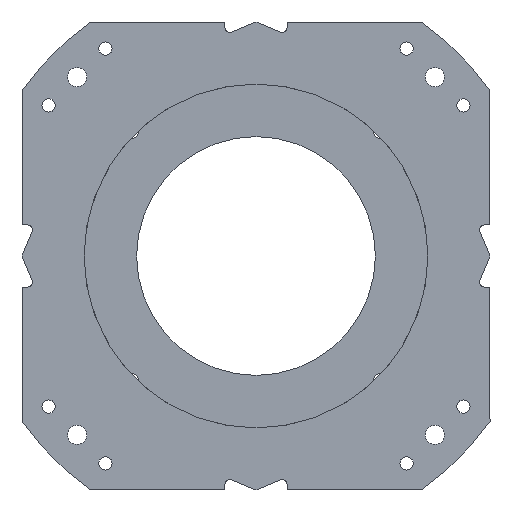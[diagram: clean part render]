
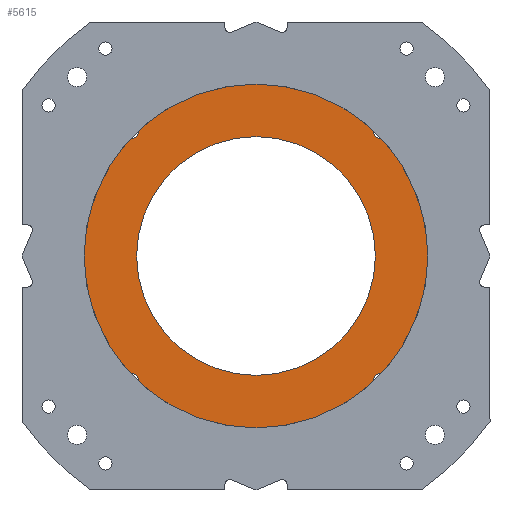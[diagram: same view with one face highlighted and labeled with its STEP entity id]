
A CAD part, front view. The second image highlights one B-rep face of the part: STEP entity #5615.
In plain terms, the highlighted planar face has unit normal (0, -1, 0).
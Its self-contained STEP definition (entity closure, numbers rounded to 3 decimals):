
#10 = DIRECTION ( 'NONE',  ( 0., -1., 0. ) ) ;
#59 = CARTESIAN_POINT ( 'NONE',  ( 0., 263., -180. ) ) ;
#106 = DIRECTION ( 'NONE',  ( 0., 0., -1. ) ) ;
#189 = ORIENTED_EDGE ( 'NONE', *, *, #2315, .F. ) ;
#229 = CARTESIAN_POINT ( 'NONE',  ( 130., 263., 130. ) ) ;
#264 = CIRCLE ( 'NONE', #4514, 7. ) ;
#274 = DIRECTION ( 'NONE',  ( 0., -1., 0. ) ) ;
#381 = CIRCLE ( 'NONE', #3617, 7. ) ;
#393 = EDGE_CURVE ( 'NONE', #2235, #1157, #381, .T. ) ;
#411 = VERTEX_POINT ( 'NONE', #658 ) ;
#414 = DIRECTION ( 'NONE',  ( 0., 0., -1. ) ) ;
#416 = AXIS2_PLACEMENT_3D ( 'NONE', #5645, #1369, #2545 ) ;
#499 = CIRCLE ( 'NONE', #2045, 180. ) ;
#526 = ORIENTED_EDGE ( 'NONE', *, *, #6939, .F. ) ;
#658 = CARTESIAN_POINT ( 'NONE',  ( 123.123, 263., 131.304 ) ) ;
#663 = DIRECTION ( 'NONE',  ( 0., 0., -1. ) ) ;
#693 = ORIENTED_EDGE ( 'NONE', *, *, #393, .F. ) ;
#723 = ORIENTED_EDGE ( 'NONE', *, *, #1205, .F. ) ;
#784 = CIRCLE ( 'NONE', #4374, 7. ) ;
#819 = CARTESIAN_POINT ( 'NONE',  ( 0., 263., 0. ) ) ;
#902 = CARTESIAN_POINT ( 'NONE',  ( 0., 263., 0. ) ) ;
#993 = VERTEX_POINT ( 'NONE', #6865 ) ;
#1014 = DIRECTION ( 'NONE',  ( 0., -1., 0. ) ) ;
#1034 = CARTESIAN_POINT ( 'NONE',  ( 0., 263., 0. ) ) ;
#1058 = AXIS2_PLACEMENT_3D ( 'NONE', #819, #7522, #663 ) ;
#1068 = CARTESIAN_POINT ( 'NONE',  ( 130., 263., -123. ) ) ;
#1157 = VERTEX_POINT ( 'NONE', #7712 ) ;
#1170 = CIRCLE ( 'NONE', #6683, 180. ) ;
#1205 = EDGE_CURVE ( 'NONE', #6469, #3602, #2585, .T. ) ;
#1214 = DIRECTION ( 'NONE',  ( 0., -1., 0. ) ) ;
#1261 = CARTESIAN_POINT ( 'NONE',  ( 130., 263., -130. ) ) ;
#1267 = EDGE_CURVE ( 'NONE', #5495, #4614, #264, .T. ) ;
#1319 = AXIS2_PLACEMENT_3D ( 'NONE', #7372, #3618, #6045 ) ;
#1328 = AXIS2_PLACEMENT_3D ( 'NONE', #3606, #1214, #1732 ) ;
#1369 = DIRECTION ( 'NONE',  ( 0., -1., 0. ) ) ;
#1503 = CARTESIAN_POINT ( 'NONE',  ( 0., 263., 0. ) ) ;
#1519 = DIRECTION ( 'NONE',  ( 0., -1., 0. ) ) ;
#1586 = DIRECTION ( 'NONE',  ( 0., 0., 1. ) ) ;
#1594 = ORIENTED_EDGE ( 'NONE', *, *, #2526, .F. ) ;
#1627 = CARTESIAN_POINT ( 'NONE',  ( -131.304, 263., -123.123 ) ) ;
#1722 = ORIENTED_EDGE ( 'NONE', *, *, #5327, .F. ) ;
#1732 = DIRECTION ( 'NONE',  ( 0., 0., -1. ) ) ;
#1765 = EDGE_CURVE ( 'NONE', #1157, #2723, #1937, .T. ) ;
#1780 = CIRCLE ( 'NONE', #1918, 180. ) ;
#1794 = DIRECTION ( 'NONE',  ( 0., 0., 1. ) ) ;
#1890 = CARTESIAN_POINT ( 'NONE',  ( 0., 263., 0. ) ) ;
#1918 = AXIS2_PLACEMENT_3D ( 'NONE', #2011, #7354, #2499 ) ;
#1937 = CIRCLE ( 'NONE', #2450, 180. ) ;
#1952 = ORIENTED_EDGE ( 'NONE', *, *, #5223, .F. ) ;
#1969 = VERTEX_POINT ( 'NONE', #1068 ) ;
#2008 = CARTESIAN_POINT ( 'NONE',  ( 131.304, 263., -123.123 ) ) ;
#2011 = CARTESIAN_POINT ( 'NONE',  ( 0., 263., 0. ) ) ;
#2019 = FACE_BOUND ( 'NONE', #4557, .T. ) ;
#2045 = AXIS2_PLACEMENT_3D ( 'NONE', #1034, #7299, #1794 ) ;
#2197 = DIRECTION ( 'NONE',  ( 0., 1., 0. ) ) ;
#2235 = VERTEX_POINT ( 'NONE', #6482 ) ;
#2266 = EDGE_CURVE ( 'NONE', #993, #411, #1170, .T. ) ;
#2315 = EDGE_CURVE ( 'NONE', #1969, #6469, #6801, .T. ) ;
#2450 = AXIS2_PLACEMENT_3D ( 'NONE', #1890, #5040, #5603 ) ;
#2481 = CIRCLE ( 'NONE', #1058, 125. ) ;
#2499 = DIRECTION ( 'NONE',  ( 0., 0., 1. ) ) ;
#2526 = EDGE_CURVE ( 'NONE', #2723, #1969, #784, .T. ) ;
#2545 = DIRECTION ( 'NONE',  ( 0., 0., -1. ) ) ;
#2565 = CARTESIAN_POINT ( 'NONE',  ( 0., 263., 0. ) ) ;
#2585 = CIRCLE ( 'NONE', #7328, 180. ) ;
#2723 = VERTEX_POINT ( 'NONE', #2008 ) ;
#2803 = AXIS2_PLACEMENT_3D ( 'NONE', #2565, #5029, #106 ) ;
#2814 = AXIS2_PLACEMENT_3D ( 'NONE', #7057, #5270, #4022 ) ;
#2817 = CARTESIAN_POINT ( 'NONE',  ( 130., 263., -130. ) ) ;
#2855 = ORIENTED_EDGE ( 'NONE', *, *, #7377, .F. ) ;
#2984 = CARTESIAN_POINT ( 'NONE',  ( -131.304, 263., 123.123 ) ) ;
#3078 = AXIS2_PLACEMENT_3D ( 'NONE', #229, #1519, #6301 ) ;
#3191 = PLANE ( 'NONE',  #416 ) ;
#3255 = EDGE_CURVE ( 'NONE', #4980, #5168, #6074, .T. ) ;
#3274 = ORIENTED_EDGE ( 'NONE', *, *, #7890, .F. ) ;
#3420 = CARTESIAN_POINT ( 'NONE',  ( 0., 263., 0. ) ) ;
#3459 = CARTESIAN_POINT ( 'NONE',  ( -130., 263., 123. ) ) ;
#3482 = ORIENTED_EDGE ( 'NONE', *, *, #3255, .F. ) ;
#3544 = CARTESIAN_POINT ( 'NONE',  ( 130., 263., 130. ) ) ;
#3596 = CIRCLE ( 'NONE', #2803, 125. ) ;
#3602 = VERTEX_POINT ( 'NONE', #59 ) ;
#3606 = CARTESIAN_POINT ( 'NONE',  ( -130., 263., 130. ) ) ;
#3617 = AXIS2_PLACEMENT_3D ( 'NONE', #3544, #10, #7132 ) ;
#3618 = DIRECTION ( 'NONE',  ( 0., -1., 0. ) ) ;
#3755 = VERTEX_POINT ( 'NONE', #5765 ) ;
#3867 = VERTEX_POINT ( 'NONE', #5846 ) ;
#3963 = DIRECTION ( 'NONE',  ( 0., 1., 0. ) ) ;
#3973 = CIRCLE ( 'NONE', #3078, 7. ) ;
#4022 = DIRECTION ( 'NONE',  ( 0., 0., -1. ) ) ;
#4204 = ORIENTED_EDGE ( 'NONE', *, *, #1267, .F. ) ;
#4275 = CIRCLE ( 'NONE', #1319, 7. ) ;
#4282 = AXIS2_PLACEMENT_3D ( 'NONE', #3420, #2197, #5817 ) ;
#4342 = ORIENTED_EDGE ( 'NONE', *, *, #7219, .F. ) ;
#4374 = AXIS2_PLACEMENT_3D ( 'NONE', #2817, #274, #5794 ) ;
#4514 = AXIS2_PLACEMENT_3D ( 'NONE', #5886, #1014, #414 ) ;
#4536 = EDGE_CURVE ( 'NONE', #4614, #4980, #6452, .T. ) ;
#4557 = EDGE_LOOP ( 'NONE', ( #1722, #2855 ) ) ;
#4614 = VERTEX_POINT ( 'NONE', #1627 ) ;
#4691 = CARTESIAN_POINT ( 'NONE',  ( 0., 263., -125. ) ) ;
#4858 = ORIENTED_EDGE ( 'NONE', *, *, #1765, .F. ) ;
#4887 = CARTESIAN_POINT ( 'NONE',  ( -130., 263., -123. ) ) ;
#4891 = DIRECTION ( 'NONE',  ( 0., -1., 0. ) ) ;
#4959 = VERTEX_POINT ( 'NONE', #4691 ) ;
#4980 = VERTEX_POINT ( 'NONE', #2984 ) ;
#5029 = DIRECTION ( 'NONE',  ( 0., -1., 0. ) ) ;
#5040 = DIRECTION ( 'NONE',  ( 0., 1., 0. ) ) ;
#5115 = EDGE_LOOP ( 'NONE', ( #1594, #4858, #693, #3274, #6996, #4342, #1952, #3482, #5748, #4204, #5571, #526, #723, #189 ) ) ;
#5168 = VERTEX_POINT ( 'NONE', #3459 ) ;
#5223 = EDGE_CURVE ( 'NONE', #5168, #3755, #4275, .T. ) ;
#5270 = DIRECTION ( 'NONE',  ( 0., -1., 0. ) ) ;
#5327 = EDGE_CURVE ( 'NONE', #3867, #4959, #2481, .T. ) ;
#5495 = VERTEX_POINT ( 'NONE', #4887 ) ;
#5571 = ORIENTED_EDGE ( 'NONE', *, *, #7129, .F. ) ;
#5584 = VERTEX_POINT ( 'NONE', #6192 ) ;
#5603 = DIRECTION ( 'NONE',  ( 0., 0., 1. ) ) ;
#5615 = ADVANCED_FACE ( 'NONE', ( #2019, #7399 ), #3191, .T. ) ;
#5645 = CARTESIAN_POINT ( 'NONE',  ( 0., 263., 0. ) ) ;
#5748 = ORIENTED_EDGE ( 'NONE', *, *, #4536, .F. ) ;
#5765 = CARTESIAN_POINT ( 'NONE',  ( -123.123, 263., 131.304 ) ) ;
#5778 = AXIS2_PLACEMENT_3D ( 'NONE', #1261, #4891, #7904 ) ;
#5794 = DIRECTION ( 'NONE',  ( 0., 0., -1. ) ) ;
#5813 = DIRECTION ( 'NONE',  ( 0., 0., 1. ) ) ;
#5817 = DIRECTION ( 'NONE',  ( 0., 0., 1. ) ) ;
#5846 = CARTESIAN_POINT ( 'NONE',  ( 0., 263., 125. ) ) ;
#5886 = CARTESIAN_POINT ( 'NONE',  ( -130., 263., -130. ) ) ;
#6045 = DIRECTION ( 'NONE',  ( 0., 0., -1. ) ) ;
#6074 = CIRCLE ( 'NONE', #1328, 7. ) ;
#6192 = CARTESIAN_POINT ( 'NONE',  ( -123.123, 263., -131.304 ) ) ;
#6274 = CIRCLE ( 'NONE', #2814, 7. ) ;
#6301 = DIRECTION ( 'NONE',  ( 0., 0., -1. ) ) ;
#6452 = CIRCLE ( 'NONE', #4282, 180. ) ;
#6469 = VERTEX_POINT ( 'NONE', #6928 ) ;
#6482 = CARTESIAN_POINT ( 'NONE',  ( 130., 263., 123. ) ) ;
#6683 = AXIS2_PLACEMENT_3D ( 'NONE', #1503, #3963, #5813 ) ;
#6801 = CIRCLE ( 'NONE', #5778, 7. ) ;
#6865 = CARTESIAN_POINT ( 'NONE',  ( 0., 263., 180. ) ) ;
#6928 = CARTESIAN_POINT ( 'NONE',  ( 123.123, 263., -131.304 ) ) ;
#6939 = EDGE_CURVE ( 'NONE', #3602, #5584, #1780, .T. ) ;
#6996 = ORIENTED_EDGE ( 'NONE', *, *, #2266, .F. ) ;
#7057 = CARTESIAN_POINT ( 'NONE',  ( -130., 263., -130. ) ) ;
#7080 = DIRECTION ( 'NONE',  ( 0., 1., 0. ) ) ;
#7129 = EDGE_CURVE ( 'NONE', #5584, #5495, #6274, .T. ) ;
#7132 = DIRECTION ( 'NONE',  ( 0., 0., -1. ) ) ;
#7219 = EDGE_CURVE ( 'NONE', #3755, #993, #499, .T. ) ;
#7299 = DIRECTION ( 'NONE',  ( 0., 1., 0. ) ) ;
#7328 = AXIS2_PLACEMENT_3D ( 'NONE', #902, #7080, #1586 ) ;
#7354 = DIRECTION ( 'NONE',  ( 0., 1., 0. ) ) ;
#7372 = CARTESIAN_POINT ( 'NONE',  ( -130., 263., 130. ) ) ;
#7377 = EDGE_CURVE ( 'NONE', #4959, #3867, #3596, .T. ) ;
#7399 = FACE_OUTER_BOUND ( 'NONE', #5115, .T. ) ;
#7522 = DIRECTION ( 'NONE',  ( 0., -1., 0. ) ) ;
#7712 = CARTESIAN_POINT ( 'NONE',  ( 131.304, 263., 123.123 ) ) ;
#7890 = EDGE_CURVE ( 'NONE', #411, #2235, #3973, .T. ) ;
#7904 = DIRECTION ( 'NONE',  ( 0., 0., -1. ) ) ;
